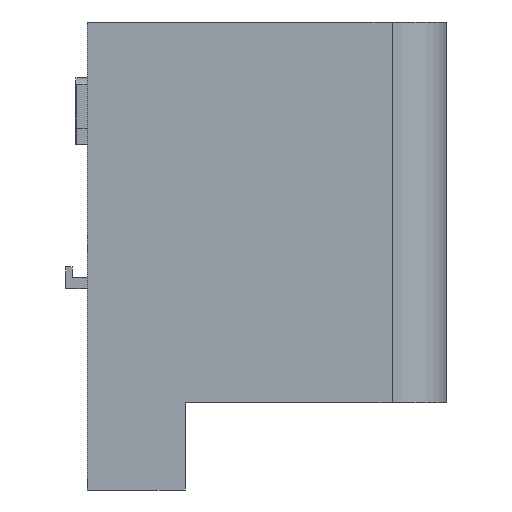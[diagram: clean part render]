
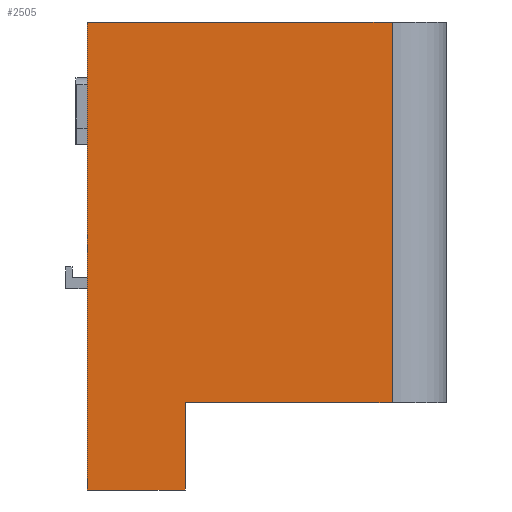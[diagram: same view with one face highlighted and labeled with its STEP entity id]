
A CAD part, left-side view. The second image highlights one B-rep face of the part: STEP entity #2505.
In plain terms, the highlighted planar face has unit normal (-1, 0, 0).
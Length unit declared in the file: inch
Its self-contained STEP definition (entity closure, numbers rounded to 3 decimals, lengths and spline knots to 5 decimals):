
#689 = EDGE_CURVE ( 'NONE', #3145, #3166, #4534, .T. ) ;
#690 = EDGE_CURVE ( 'NONE', #3166, #3103, #4532, .T. ) ;
#692 = EDGE_CURVE ( 'NONE', #2969, #3145, #4540, .T. ) ;
#693 = EDGE_CURVE ( 'NONE', #3103, #3065, #4542, .T. ) ;
#712 = EDGE_CURVE ( 'NONE', #3091, #2969, #4576, .T. ) ;
#2505 = ADVANCED_FACE ( 'NONE', ( #5884 ), #10014, .T. ) ;
#2969 = VERTEX_POINT ( 'NONE', #7611 ) ;
#3065 = VERTEX_POINT ( 'NONE', #7707 ) ;
#3091 = VERTEX_POINT ( 'NONE', #7733 ) ;
#3103 = VERTEX_POINT ( 'NONE', #7745 ) ;
#3145 = VERTEX_POINT ( 'NONE', #7787 ) ;
#3166 = VERTEX_POINT ( 'NONE', #7808 ) ;
#3413 = ORIENTED_EDGE ( 'NONE', *, *, #692, .T. ) ;
#3414 = ORIENTED_EDGE ( 'NONE', *, *, #712, .T. ) ;
#3415 = ORIENTED_EDGE ( 'NONE', *, *, #7172, .T. ) ;
#3416 = ORIENTED_EDGE ( 'NONE', *, *, #693, .T. ) ;
#3417 = ORIENTED_EDGE ( 'NONE', *, *, #690, .T. ) ;
#3418 = ORIENTED_EDGE ( 'NONE', *, *, #689, .T. ) ;
#3717 = EDGE_LOOP ( 'NONE', ( #3418, #3417, #3416, #3415, #3414, #3413 ) ) ;
#4532 = LINE ( 'NONE', #8834, #4536 ) ;
#4534 = LINE ( 'NONE', #8849, #4535 ) ;
#4535 = VECTOR ( 'NONE', #8850, 39.37008 ) ;
#4536 = VECTOR ( 'NONE', #8852, 39.37008 ) ;
#4540 = LINE ( 'NONE', #8855, #4541 ) ;
#4541 = VECTOR ( 'NONE', #8856, 39.37008 ) ;
#4542 = LINE ( 'NONE', #8857, #4543 ) ;
#4543 = VECTOR ( 'NONE', #8858, 39.37008 ) ;
#4576 = LINE ( 'NONE', #10302, #4578 ) ;
#4578 = VECTOR ( 'NONE', #10310, 39.37008 ) ;
#5388 = AXIS2_PLACEMENT_3D ( 'NONE', #10013, #10020, #10021 ) ;
#5884 = FACE_OUTER_BOUND ( 'NONE', #3717, .T. ) ;
#6657 = LINE ( 'NONE', #10714, #6658 ) ;
#6658 = VECTOR ( 'NONE', #10715, 39.37008 ) ;
#7172 = EDGE_CURVE ( 'NONE', #3065, #3091, #6657, .T. ) ;
#7611 = CARTESIAN_POINT ( 'NONE',  ( -1.2, -0.9, -0.8 ) ) ;
#7707 = CARTESIAN_POINT ( 'NONE',  ( -1.2, 0., 3.5 ) ) ;
#7733 = CARTESIAN_POINT ( 'NONE',  ( -1.2, 0., -0.8 ) ) ;
#7745 = CARTESIAN_POINT ( 'NONE',  ( -1.2, -2.8, 3.5 ) ) ;
#7787 = CARTESIAN_POINT ( 'NONE',  ( -1.2, -0.9, 0. ) ) ;
#7808 = CARTESIAN_POINT ( 'NONE',  ( -1.2, -2.8, 0. ) ) ;
#8834 = CARTESIAN_POINT ( 'NONE',  ( -1.2, -2.8, 0. ) ) ;
#8849 = CARTESIAN_POINT ( 'NONE',  ( -1.2, -2.8, 0. ) ) ;
#8850 = DIRECTION ( 'NONE',  ( 0., -1., 0. ) ) ;
#8852 = DIRECTION ( 'NONE',  ( 0., 0., 1. ) ) ;
#8855 = CARTESIAN_POINT ( 'NONE',  ( -1.2, -0.9, 0. ) ) ;
#8856 = DIRECTION ( 'NONE',  ( 0., 0., 1. ) ) ;
#8857 = CARTESIAN_POINT ( 'NONE',  ( -1.2, -2.8, 3.5 ) ) ;
#8858 = DIRECTION ( 'NONE',  ( 0., 1., 0. ) ) ;
#10013 = CARTESIAN_POINT ( 'NONE',  ( -1.2, -2.8, 0. ) ) ;
#10014 = PLANE ( 'NONE',  #5388 ) ;
#10020 = DIRECTION ( 'NONE',  ( -1., 0., 0. ) ) ;
#10021 = DIRECTION ( 'NONE',  ( 0., -1., 0. ) ) ;
#10302 = CARTESIAN_POINT ( 'NONE',  ( -1.2, -2.8, -0.8 ) ) ;
#10310 = DIRECTION ( 'NONE',  ( 0., -1., 0. ) ) ;
#10714 = CARTESIAN_POINT ( 'NONE',  ( -1.2, 0., 0. ) ) ;
#10715 = DIRECTION ( 'NONE',  ( 0., 0., -1. ) ) ;
